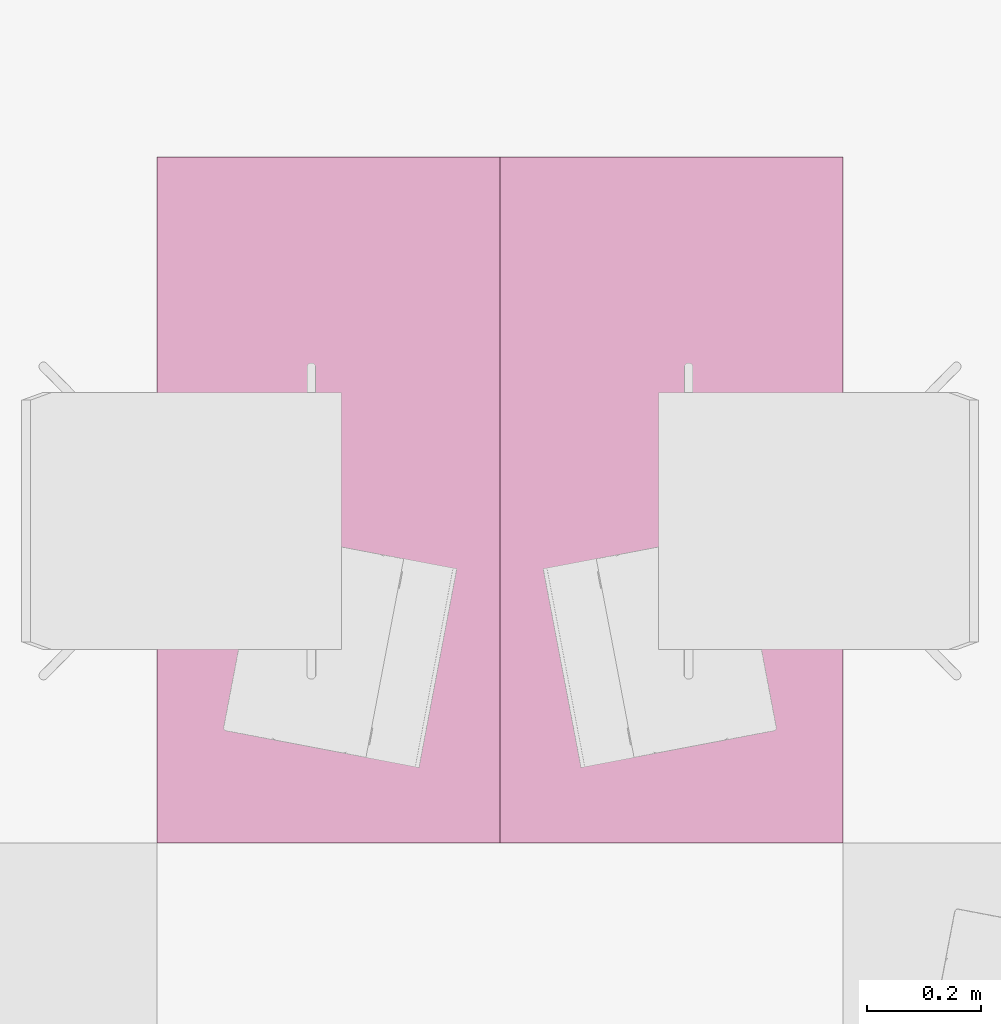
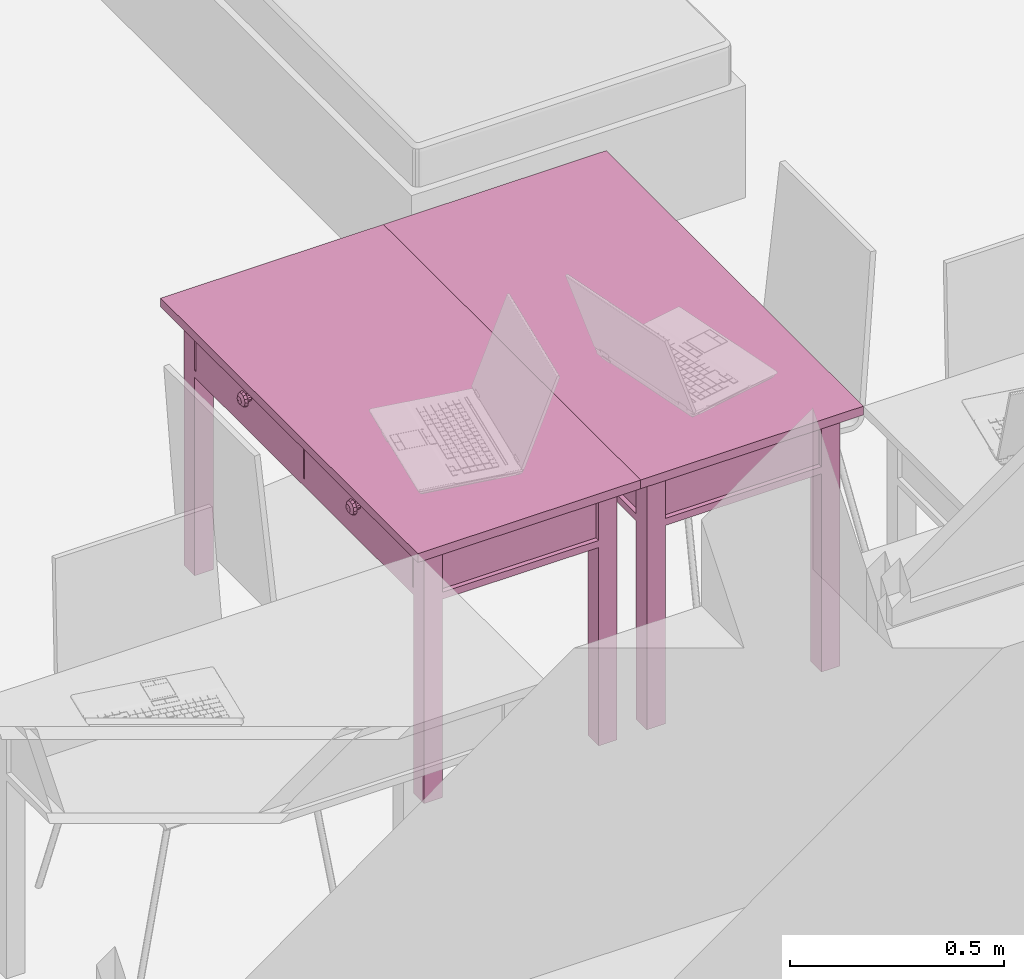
# One storey, part 54 of 165: 2 furnishings.
"""IFC2X3 building model written with IfcOpenShell, lengths in millimetres."""

from ifc_helpers import new_model, entity, si_unit, converted_unit, money_unit, direction, frame, origin_with_axes, place, context, subcontext, project, spatial, faceted_brep, source, transform, mapped, material, material_list, type_object, element, save


model = new_model("IFC2X3")

# Units and contexts
model_context = context("Model", 3, precision=1e-05, world=origin_with_axes(), true_north=direction((0.0, 1.0)))
body_context = subcontext(model_context, "Body", "Model", "MODEL_VIEW")
ifc_project = project(units=[si_unit("LENGTHUNIT", "METRE", prefix="MILLI"), si_unit("AREAUNIT", "SQUARE_METRE"), si_unit("VOLUMEUNIT", "CUBIC_METRE"), converted_unit("PLANEANGLEUNIT", "DEGREE", entity("IfcPlaneAngleMeasure", 0.0174532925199), si_unit("PLANEANGLEUNIT", "RADIAN"), dimensions=[0, 0, 0, 0, 0, 0, 0]), si_unit("SOLIDANGLEUNIT", "STERADIAN"), money_unit("USD"), converted_unit("TIMEUNIT", "Year", entity("IfcTimeMeasure", 31556926.0), si_unit("TIMEUNIT", "SECOND"), dimensions=[0, 0, 0, 0, 0, 0, 0]), si_unit("MASSUNIT", "GRAM"), si_unit("THERMODYNAMICTEMPERATUREUNIT", "DEGREE_CELSIUS"), si_unit("LUMINOUSINTENSITYUNIT", "LUMEN")], contexts=[model_context])

# Site, building, storey
site_placement = place(None, origin_with_axes())
site = spatial("IfcSite", under=ifc_project, at=site_placement, Name="Site", CompositionType="ELEMENT")
building_placement = place(site_placement, origin_with_axes())
building = spatial("IfcBuilding", under=site, at=building_placement, Name="Building", CompositionType="ELEMENT")
storey_placement = place(building_placement, frame((0.0, 0.0, 6300.0), z_axis=(0.0, 0.0, 1.0), x_axis=(1.0, 0.0, 0.0)))
storey = spatial("IfcBuildingStorey", under=building, at=storey_placement, Name="4KORRUS", CompositionType="ELEMENT", Elevation=6300.0)

# Furnishings
ifc_material = material(Name="Background")
ifc_material_list = material_list([ifc_material])
furnishing_element_type = type_object("IfcFurnishingElementType", Name="Rectangular Table 01 19")
shared_shape_1 = source(origin_with_axes(), body_context, "Body", "Brep", [
    faceted_brep([(90.0, 40.0, 0.0), (40.0, 40.0, 0.0), (40.0, 90.0, 0.0), (90.0, 90.0, 0.0), (90.0, 40.0, 725.0), (40.0, 40.0, 725.0), (40.0, 90.0, 725.0), (90.0, 90.0, 725.0)], [[[0, 1, 2, 3]], [[1, 0, 4, 5]], [[2, 1, 5, 6]], [[3, 2, 6, 7]], [[0, 3, 7, 4]], [[5, 4, 7, 6]]]),
    faceted_brep([(1160.0, 40.0, 0.0), (1110.0, 40.0, 0.0), (1110.0, 90.0, 0.0), (1160.0, 90.0, 0.0), (1160.0, 40.0, 725.0), (1110.0, 40.0, 725.0), (1110.0, 90.0, 725.0), (1160.0, 90.0, 725.0)], [[[0, 1, 2, 3]], [[1, 0, 4, 5]], [[2, 1, 5, 6]], [[3, 2, 6, 7]], [[0, 3, 7, 4]], [[5, 4, 7, 6]]]),
    faceted_brep([(90.0, 510.0, 0.0), (40.0, 510.0, 0.0), (40.0, 560.0, 0.0), (90.0, 560.0, 0.0), (90.0, 510.0, 725.0), (40.0, 510.0, 725.0), (40.0, 560.0, 725.0), (90.0, 560.0, 725.0)], [[[0, 1, 2, 3]], [[1, 0, 4, 5]], [[2, 1, 5, 6]], [[3, 2, 6, 7]], [[0, 3, 7, 4]], [[5, 4, 7, 6]]]),
    faceted_brep([(1160.0, 510.0, 0.0), (1110.0, 510.0, 0.0), (1110.0, 560.0, 0.0), (1160.0, 560.0, 0.0), (1160.0, 510.0, 725.0), (1110.0, 510.0, 725.0), (1110.0, 560.0, 725.0), (1160.0, 560.0, 725.0)], [[[0, 1, 2, 3]], [[1, 0, 4, 5]], [[2, 1, 5, 6]], [[3, 2, 6, 7]], [[0, 3, 7, 4]], [[5, 4, 7, 6]]]),
    faceted_brep([(1160.0, 40.0, 565.0), (40.0, 40.0, 565.0), (40.0, 560.0, 565.0), (1160.0, 560.0, 565.0), (1160.0, 40.0, 585.0), (40.0, 40.0, 585.0), (40.0, 560.0, 585.0), (1160.0, 560.0, 585.0)], [[[0, 1, 2, 3]], [[1, 0, 4, 5]], [[2, 1, 5, 6]], [[3, 2, 6, 7]], [[0, 3, 7, 4]], [[5, 4, 7, 6]]]),
    faceted_brep([(1110.0, 52.5, 585.0), (90.0, 52.5, 585.0), (90.0, 77.5, 585.0), (1110.0, 77.5, 585.0), (1110.0, 52.5, 745.0), (90.0, 52.5, 745.0), (90.0, 77.5, 745.0), (1110.0, 77.5, 745.0)], [[[0, 1, 2, 3]], [[1, 0, 4, 5]], [[2, 1, 5, 6]], [[3, 2, 6, 7]], [[0, 3, 7, 4]], [[5, 4, 7, 6]]]),
    faceted_brep([(77.5, 90.0, 585.0), (52.5, 90.0, 585.0), (52.5, 510.0, 585.0), (77.5, 510.0, 585.0), (77.5, 90.0, 745.0), (52.5, 90.0, 745.0), (52.5, 510.0, 745.0), (77.5, 510.0, 745.0)], [[[0, 1, 2, 3]], [[1, 0, 4, 5]], [[2, 1, 5, 6]], [[3, 2, 6, 7]], [[0, 3, 7, 4]], [[5, 4, 7, 6]]]),
    faceted_brep([(90.0, 547.5, 585.0), (1110.0, 547.5, 585.0), (1110.0, 522.5, 585.0), (90.0, 522.5, 585.0), (90.0, 547.5, 745.0), (1110.0, 547.5, 745.0), (1110.0, 522.5, 745.0), (90.0, 522.5, 745.0)], [[[0, 1, 2, 3]], [[1, 0, 4, 5]], [[2, 1, 5, 6]], [[3, 2, 6, 7]], [[0, 3, 7, 4]], [[5, 4, 7, 6]]]),
    faceted_brep([(1122.5, 510.0, 585.0), (1147.5, 510.0, 585.0), (1147.5, 90.0, 585.0), (1122.5, 90.0, 585.0), (1122.5, 510.0, 745.0), (1147.5, 510.0, 745.0), (1147.5, 90.0, 745.0), (1122.5, 90.0, 745.0)], [[[0, 1, 2, 3]], [[1, 0, 4, 5]], [[2, 1, 5, 6]], [[3, 2, 6, 7]], [[0, 3, 7, 4]], [[5, 4, 7, 6]]]),
    faceted_brep([(597.5, 40.0, 585.0), (95.0, 40.0, 585.0), (95.0, 60.0, 585.0), (597.5, 60.0, 585.0), (597.5, 40.0, 745.0), (95.0, 40.0, 745.0), (95.0, 60.0, 745.0), (597.5, 60.0, 745.0)], [[[0, 1, 2, 3]], [[1, 0, 4, 5]], [[2, 1, 5, 6]], [[3, 2, 6, 7]], [[0, 3, 7, 4]], [[5, 4, 7, 6]]]),
    faceted_brep([(1105.0, 40.0, 585.0), (602.5, 40.0, 585.0), (602.5, 60.0, 585.0), (1105.0, 60.0, 585.0), (1105.0, 40.0, 745.0), (602.5, 40.0, 745.0), (602.5, 60.0, 745.0), (1105.0, 60.0, 745.0)], [[[0, 1, 2, 3]], [[1, 0, 4, 5]], [[2, 1, 5, 6]], [[3, 2, 6, 7]], [[0, 3, 7, 4]], [[5, 4, 7, 6]]]),
    faceted_brep([(354.91, 40.0, 660.0), (351.25, 40.0, 656.34), (346.25, 40.0, 655.0), (341.25, 40.0, 656.34), (337.59, 40.0, 660.0), (336.25, 40.0, 665.0), (337.59, 40.0, 670.0), (341.25, 40.0, 673.66), (346.25, 40.0, 675.0), (351.25, 40.0, 673.66), (354.91, 40.0, 670.0), (356.25, 40.0, 665.0), (354.91, 25.0, 660.0), (351.25, 25.0, 656.34), (346.25, 25.0, 655.0), (341.25, 25.0, 656.34), (337.59, 25.0, 660.0), (336.25, 25.0, 665.0), (337.59, 25.0, 670.0), (341.25, 25.0, 673.66), (346.25, 25.0, 675.0), (351.25, 25.0, 673.66), (354.91, 25.0, 670.0), (356.25, 25.0, 665.0)], [[[0, 1, 2, 3, 4, 5, 6, 7, 8, 9, 10, 11]], [[1, 0, 12, 13]], [[2, 1, 13, 14]], [[3, 2, 14, 15]], [[4, 3, 15, 16]], [[5, 4, 16, 17]], [[6, 5, 17, 18]], [[7, 6, 18, 19]], [[8, 7, 19, 20]], [[9, 8, 20, 21]], [[10, 9, 21, 22]], [[11, 10, 22, 23]], [[0, 11, 23, 12]], [[12, 23, 22, 21, 20, 19, 18, 17, 16, 15, 14, 13]]]),
    faceted_brep([(356.25, 12.01, 665.0), (346.25, 10.0, 665.0), (354.91, 12.01, 660.0), (354.91, 12.01, 670.0), (351.25, 12.01, 656.34), (363.571, 17.5, 665.0), (361.25, 17.5, 656.34), (351.25, 12.01, 673.66), (361.25, 17.5, 673.66), (346.25, 12.01, 655.0), (354.91, 17.5, 650.0), (366.25, 25.0, 665.0), (363.571, 25.0, 655.0), (346.25, 12.01, 675.0), (354.91, 17.5, 680.0), (363.571, 25.0, 675.0), (341.25, 12.01, 656.34), (346.25, 17.5, 647.679), (356.25, 25.0, 647.679), (346.25, 25.0, 645.0), (336.25, 25.0, 647.679), (328.929, 25.0, 655.0), (326.25, 25.0, 665.0), (328.929, 25.0, 675.0), (336.25, 25.0, 682.321), (346.25, 25.0, 685.0), (356.25, 25.0, 682.321), (341.25, 12.01, 673.66), (346.25, 17.5, 682.321), (337.59, 12.01, 660.0), (337.59, 17.5, 650.0), (331.25, 17.5, 656.34), (328.929, 17.5, 665.0), (331.25, 17.5, 673.66), (337.59, 17.5, 680.0), (337.59, 12.01, 670.0), (336.25, 12.01, 665.0)], [[[0, 1, 2]], [[3, 1, 0]], [[2, 1, 4]], [[5, 0, 2, 6]], [[7, 1, 3]], [[8, 3, 0, 5]], [[4, 1, 9]], [[6, 2, 4, 10]], [[11, 5, 6, 12]], [[13, 1, 7]], [[14, 7, 3, 8]], [[15, 8, 5, 11]], [[9, 1, 16]], [[10, 4, 9, 17]], [[12, 6, 10, 18]], [[12, 18, 19, 20, 21, 22, 23, 24, 25, 26, 15, 11]], [[27, 1, 13]], [[28, 13, 7, 14]], [[26, 14, 8, 15]], [[16, 1, 29]], [[17, 9, 16, 30]], [[18, 10, 17, 19]], [[19, 17, 30, 20]], [[20, 30, 31, 21]], [[21, 31, 32, 22]], [[22, 32, 33, 23]], [[23, 33, 34, 24]], [[24, 34, 28, 25]], [[25, 28, 14, 26]], [[35, 1, 27]], [[34, 27, 13, 28]], [[29, 1, 36]], [[30, 16, 29, 31]], [[31, 29, 36, 32]], [[32, 36, 35, 33]], [[33, 35, 27, 34]], [[36, 1, 35]]]),
    faceted_brep([(862.41, 40.0, 660.0), (858.75, 40.0, 656.34), (853.75, 40.0, 655.0), (848.75, 40.0, 656.34), (845.09, 40.0, 660.0), (843.75, 40.0, 665.0), (845.09, 40.0, 670.0), (848.75, 40.0, 673.66), (853.75, 40.0, 675.0), (858.75, 40.0, 673.66), (862.41, 40.0, 670.0), (863.75, 40.0, 665.0), (862.41, 25.0, 660.0), (858.75, 25.0, 656.34), (853.75, 25.0, 655.0), (848.75, 25.0, 656.34), (845.09, 25.0, 660.0), (843.75, 25.0, 665.0), (845.09, 25.0, 670.0), (848.75, 25.0, 673.66), (853.75, 25.0, 675.0), (858.75, 25.0, 673.66), (862.41, 25.0, 670.0), (863.75, 25.0, 665.0)], [[[0, 1, 2, 3, 4, 5, 6, 7, 8, 9, 10, 11]], [[1, 0, 12, 13]], [[2, 1, 13, 14]], [[3, 2, 14, 15]], [[4, 3, 15, 16]], [[5, 4, 16, 17]], [[6, 5, 17, 18]], [[7, 6, 18, 19]], [[8, 7, 19, 20]], [[9, 8, 20, 21]], [[10, 9, 21, 22]], [[11, 10, 22, 23]], [[0, 11, 23, 12]], [[12, 23, 22, 21, 20, 19, 18, 17, 16, 15, 14, 13]]]),
    faceted_brep([(863.75, 12.01, 665.0), (853.75, 10.0, 665.0), (862.41, 12.01, 660.0), (862.41, 12.01, 670.0), (858.75, 12.01, 656.34), (871.071, 17.5, 665.0), (868.75, 17.5, 656.34), (858.75, 12.01, 673.66), (868.75, 17.5, 673.66), (853.75, 12.01, 655.0), (862.41, 17.5, 650.0), (873.75, 25.0, 665.0), (871.071, 25.0, 655.0), (853.75, 12.01, 675.0), (862.41, 17.5, 680.0), (871.071, 25.0, 675.0), (848.75, 12.01, 656.34), (853.75, 17.5, 647.679), (863.75, 25.0, 647.679), (853.75, 25.0, 645.0), (843.75, 25.0, 647.679), (836.429, 25.0, 655.0), (833.75, 25.0, 665.0), (836.429, 25.0, 675.0), (843.75, 25.0, 682.321), (853.75, 25.0, 685.0), (863.75, 25.0, 682.321), (848.75, 12.01, 673.66), (853.75, 17.5, 682.321), (845.09, 12.01, 660.0), (845.09, 17.5, 650.0), (838.75, 17.5, 656.34), (836.429, 17.5, 665.0), (838.75, 17.5, 673.66), (845.09, 17.5, 680.0), (845.09, 12.01, 670.0), (843.75, 12.01, 665.0)], [[[0, 1, 2]], [[3, 1, 0]], [[2, 1, 4]], [[5, 0, 2, 6]], [[7, 1, 3]], [[8, 3, 0, 5]], [[4, 1, 9]], [[6, 2, 4, 10]], [[11, 5, 6, 12]], [[13, 1, 7]], [[14, 7, 3, 8]], [[15, 8, 5, 11]], [[9, 1, 16]], [[10, 4, 9, 17]], [[12, 6, 10, 18]], [[12, 18, 19, 20, 21, 22, 23, 24, 25, 26, 15, 11]], [[27, 1, 13]], [[28, 13, 7, 14]], [[26, 14, 8, 15]], [[16, 1, 29]], [[17, 9, 16, 30]], [[18, 10, 17, 19]], [[19, 17, 30, 20]], [[20, 30, 31, 21]], [[21, 31, 32, 22]], [[22, 32, 33, 23]], [[23, 33, 34, 24]], [[24, 34, 28, 25]], [[25, 28, 14, 26]], [[35, 1, 27]], [[34, 27, 13, 28]], [[29, 1, 36]], [[30, 16, 29, 31]], [[31, 29, 36, 32]], [[32, 36, 35, 33]], [[33, 35, 27, 34]], [[36, 1, 35]]]),
    faceted_brep([(1200.0, 0.0, 725.0), (0.0, 0.0, 725.0), (0.0, 600.0, 725.0), (1200.0, 600.0, 725.0), (1200.0, 0.0, 750.0), (0.0, 0.0, 750.0), (0.0, 600.0, 750.0), (1200.0, 600.0, 750.0)], [[[0, 1, 2, 3]], [[1, 0, 4, 5]], [[2, 1, 5, 6]], [[3, 2, 6, 7]], [[0, 3, 7, 4]], [[5, 4, 7, 6]]]),
])
furnishing_1_placement = place(storey_placement, frame((-50495.8669764, -18939.2398994, 0.0), z_axis=(0.0, 0.0, 1.0), x_axis=(0.0, 1.0, 0.0)))
element("IfcFurnishingElement", 1, at=furnishing_1_placement, inside=storey, type_object=furnishing_element_type, material=ifc_material_list, Name="FU - 011", context=body_context, shape_type="MappedRepresentation", body=[
    mapped(shared_shape_1, transform((0.0, 0.0, 0.0))),
])
shared_shape_2 = source(origin_with_axes(), body_context, "Body", "Brep", [
    faceted_brep([(-90.0, 40.0, 0.0), (-90.0, 90.0, 0.0), (-40.0, 90.0, 0.0), (-40.0, 40.0, 0.0), (-90.0, 40.0, 725.0), (-90.0, 90.0, 725.0), (-40.0, 90.0, 725.0), (-40.0, 40.0, 725.0)], [[[0, 1, 2, 3]], [[0, 4, 5, 1]], [[1, 5, 6, 2]], [[2, 6, 7, 3]], [[3, 7, 4, 0]], [[7, 6, 5, 4]]]),
    faceted_brep([(-1160.0, 40.0, 0.0), (-1160.0, 90.0, 0.0), (-1110.0, 90.0, 0.0), (-1110.0, 40.0, 0.0), (-1160.0, 40.0, 725.0), (-1160.0, 90.0, 725.0), (-1110.0, 90.0, 725.0), (-1110.0, 40.0, 725.0)], [[[0, 1, 2, 3]], [[0, 4, 5, 1]], [[1, 5, 6, 2]], [[2, 6, 7, 3]], [[3, 7, 4, 0]], [[7, 6, 5, 4]]]),
    faceted_brep([(-90.0, 510.0, 0.0), (-90.0, 560.0, 0.0), (-40.0, 560.0, 0.0), (-40.0, 510.0, 0.0), (-90.0, 510.0, 725.0), (-90.0, 560.0, 725.0), (-40.0, 560.0, 725.0), (-40.0, 510.0, 725.0)], [[[0, 1, 2, 3]], [[0, 4, 5, 1]], [[1, 5, 6, 2]], [[2, 6, 7, 3]], [[3, 7, 4, 0]], [[7, 6, 5, 4]]]),
    faceted_brep([(-1160.0, 510.0, 0.0), (-1160.0, 560.0, 0.0), (-1110.0, 560.0, 0.0), (-1110.0, 510.0, 0.0), (-1160.0, 510.0, 725.0), (-1160.0, 560.0, 725.0), (-1110.0, 560.0, 725.0), (-1110.0, 510.0, 725.0)], [[[0, 1, 2, 3]], [[0, 4, 5, 1]], [[1, 5, 6, 2]], [[2, 6, 7, 3]], [[3, 7, 4, 0]], [[7, 6, 5, 4]]]),
    faceted_brep([(-1160.0, 40.0, 565.0), (-1160.0, 560.0, 565.0), (-40.0, 560.0, 565.0), (-40.0, 40.0, 565.0), (-1160.0, 40.0, 585.0), (-1160.0, 560.0, 585.0), (-40.0, 560.0, 585.0), (-40.0, 40.0, 585.0)], [[[0, 1, 2, 3]], [[0, 4, 5, 1]], [[1, 5, 6, 2]], [[2, 6, 7, 3]], [[3, 7, 4, 0]], [[7, 6, 5, 4]]]),
    faceted_brep([(-1110.0, 52.5, 585.0), (-1110.0, 77.5, 585.0), (-90.0, 77.5, 585.0), (-90.0, 52.5, 585.0), (-1110.0, 52.5, 745.0), (-1110.0, 77.5, 745.0), (-90.0, 77.5, 745.0), (-90.0, 52.5, 745.0)], [[[0, 1, 2, 3]], [[0, 4, 5, 1]], [[1, 5, 6, 2]], [[2, 6, 7, 3]], [[3, 7, 4, 0]], [[7, 6, 5, 4]]]),
    faceted_brep([(-77.5, 90.0, 585.0), (-77.5, 510.0, 585.0), (-52.5, 510.0, 585.0), (-52.5, 90.0, 585.0), (-77.5, 90.0, 745.0), (-77.5, 510.0, 745.0), (-52.5, 510.0, 745.0), (-52.5, 90.0, 745.0)], [[[0, 1, 2, 3]], [[0, 4, 5, 1]], [[1, 5, 6, 2]], [[2, 6, 7, 3]], [[3, 7, 4, 0]], [[7, 6, 5, 4]]]),
    faceted_brep([(-90.0, 547.5, 585.0), (-90.0, 522.5, 585.0), (-1110.0, 522.5, 585.0), (-1110.0, 547.5, 585.0), (-90.0, 547.5, 745.0), (-90.0, 522.5, 745.0), (-1110.0, 522.5, 745.0), (-1110.0, 547.5, 745.0)], [[[0, 1, 2, 3]], [[0, 4, 5, 1]], [[1, 5, 6, 2]], [[2, 6, 7, 3]], [[3, 7, 4, 0]], [[7, 6, 5, 4]]]),
    faceted_brep([(-1122.5, 510.0, 585.0), (-1122.5, 90.0, 585.0), (-1147.5, 90.0, 585.0), (-1147.5, 510.0, 585.0), (-1122.5, 510.0, 745.0), (-1122.5, 90.0, 745.0), (-1147.5, 90.0, 745.0), (-1147.5, 510.0, 745.0)], [[[0, 1, 2, 3]], [[0, 4, 5, 1]], [[1, 5, 6, 2]], [[2, 6, 7, 3]], [[3, 7, 4, 0]], [[7, 6, 5, 4]]]),
    faceted_brep([(-597.5, 40.0, 585.0), (-597.5, 60.0, 585.0), (-95.0, 60.0, 585.0), (-95.0, 40.0, 585.0), (-597.5, 40.0, 745.0), (-597.5, 60.0, 745.0), (-95.0, 60.0, 745.0), (-95.0, 40.0, 745.0)], [[[0, 1, 2, 3]], [[0, 4, 5, 1]], [[1, 5, 6, 2]], [[2, 6, 7, 3]], [[3, 7, 4, 0]], [[7, 6, 5, 4]]]),
    faceted_brep([(-1105.0, 40.0, 585.0), (-1105.0, 60.0, 585.0), (-602.5, 60.0, 585.0), (-602.5, 40.0, 585.0), (-1105.0, 40.0, 745.0), (-1105.0, 60.0, 745.0), (-602.5, 60.0, 745.0), (-602.5, 40.0, 745.0)], [[[0, 1, 2, 3]], [[0, 4, 5, 1]], [[1, 5, 6, 2]], [[2, 6, 7, 3]], [[3, 7, 4, 0]], [[7, 6, 5, 4]]]),
    faceted_brep([(-354.91, 40.0, 660.0), (-356.25, 40.0, 665.0), (-354.91, 40.0, 670.0), (-351.25, 40.0, 673.66), (-346.25, 40.0, 675.0), (-341.25, 40.0, 673.66), (-337.59, 40.0, 670.0), (-336.25, 40.0, 665.0), (-337.59, 40.0, 660.0), (-341.25, 40.0, 656.34), (-346.25, 40.0, 655.0), (-351.25, 40.0, 656.34), (-354.91, 25.0, 660.0), (-356.25, 25.0, 665.0), (-354.91, 25.0, 670.0), (-351.25, 25.0, 673.66), (-346.25, 25.0, 675.0), (-341.25, 25.0, 673.66), (-337.59, 25.0, 670.0), (-336.25, 25.0, 665.0), (-337.59, 25.0, 660.0), (-341.25, 25.0, 656.34), (-346.25, 25.0, 655.0), (-351.25, 25.0, 656.34)], [[[0, 1, 2, 3, 4, 5, 6, 7, 8, 9, 10, 11]], [[0, 12, 13, 1]], [[1, 13, 14, 2]], [[2, 14, 15, 3]], [[3, 15, 16, 4]], [[4, 16, 17, 5]], [[5, 17, 18, 6]], [[6, 18, 19, 7]], [[7, 19, 20, 8]], [[8, 20, 21, 9]], [[9, 21, 22, 10]], [[10, 22, 23, 11]], [[11, 23, 12, 0]], [[12, 23, 22, 21, 20, 19, 18, 17, 16, 15, 14, 13]]]),
    faceted_brep([(-356.25, 12.01, 665.0), (-354.91, 12.01, 660.0), (-346.25, 10.0, 665.0), (-363.571, 17.5, 665.0), (-361.25, 17.5, 656.34), (-351.25, 12.01, 656.34), (-354.91, 12.01, 670.0), (-366.25, 25.0, 665.0), (-363.571, 25.0, 655.0), (-354.91, 17.5, 650.0), (-361.25, 17.5, 673.66), (-346.25, 12.01, 655.0), (-351.25, 12.01, 673.66), (-363.571, 25.0, 675.0), (-356.25, 25.0, 682.321), (-346.25, 25.0, 685.0), (-336.25, 25.0, 682.321), (-328.929, 25.0, 675.0), (-326.25, 25.0, 665.0), (-328.929, 25.0, 655.0), (-336.25, 25.0, 647.679), (-346.25, 25.0, 645.0), (-356.25, 25.0, 647.679), (-346.25, 17.5, 647.679), (-354.91, 17.5, 680.0), (-341.25, 12.01, 656.34), (-346.25, 12.01, 675.0), (-346.25, 17.5, 682.321), (-337.59, 17.5, 680.0), (-331.25, 17.5, 673.66), (-328.929, 17.5, 665.0), (-331.25, 17.5, 656.34), (-337.59, 17.5, 650.0), (-337.59, 12.01, 660.0), (-341.25, 12.01, 673.66), (-337.59, 12.01, 670.0), (-336.25, 12.01, 665.0)], [[[0, 1, 2]], [[3, 4, 1, 0]], [[1, 5, 2]], [[6, 0, 2]], [[7, 8, 4, 3]], [[4, 9, 5, 1]], [[10, 3, 0, 6]], [[5, 11, 2]], [[12, 6, 2]], [[8, 7, 13, 14, 15, 16, 17, 18, 19, 20, 21, 22]], [[8, 22, 9, 4]], [[13, 7, 3, 10]], [[9, 23, 11, 5]], [[24, 10, 6, 12]], [[11, 25, 2]], [[26, 12, 2]], [[14, 13, 10, 24]], [[15, 14, 24, 27]], [[16, 15, 27, 28]], [[17, 16, 28, 29]], [[18, 17, 29, 30]], [[19, 18, 30, 31]], [[20, 19, 31, 32]], [[21, 20, 32, 23]], [[22, 21, 23, 9]], [[23, 32, 25, 11]], [[27, 24, 12, 26]], [[25, 33, 2]], [[34, 26, 2]], [[28, 27, 26, 34]], [[29, 28, 34, 35]], [[30, 29, 35, 36]], [[31, 30, 36, 33]], [[32, 31, 33, 25]], [[33, 36, 2]], [[35, 34, 2]], [[36, 35, 2]]]),
    faceted_brep([(-862.41, 40.0, 660.0), (-863.75, 40.0, 665.0), (-862.41, 40.0, 670.0), (-858.75, 40.0, 673.66), (-853.75, 40.0, 675.0), (-848.75, 40.0, 673.66), (-845.09, 40.0, 670.0), (-843.75, 40.0, 665.0), (-845.09, 40.0, 660.0), (-848.75, 40.0, 656.34), (-853.75, 40.0, 655.0), (-858.75, 40.0, 656.34), (-862.41, 25.0, 660.0), (-863.75, 25.0, 665.0), (-862.41, 25.0, 670.0), (-858.75, 25.0, 673.66), (-853.75, 25.0, 675.0), (-848.75, 25.0, 673.66), (-845.09, 25.0, 670.0), (-843.75, 25.0, 665.0), (-845.09, 25.0, 660.0), (-848.75, 25.0, 656.34), (-853.75, 25.0, 655.0), (-858.75, 25.0, 656.34)], [[[0, 1, 2, 3, 4, 5, 6, 7, 8, 9, 10, 11]], [[0, 12, 13, 1]], [[1, 13, 14, 2]], [[2, 14, 15, 3]], [[3, 15, 16, 4]], [[4, 16, 17, 5]], [[5, 17, 18, 6]], [[6, 18, 19, 7]], [[7, 19, 20, 8]], [[8, 20, 21, 9]], [[9, 21, 22, 10]], [[10, 22, 23, 11]], [[11, 23, 12, 0]], [[12, 23, 22, 21, 20, 19, 18, 17, 16, 15, 14, 13]]]),
    faceted_brep([(-863.75, 12.01, 665.0), (-862.41, 12.01, 660.0), (-853.75, 10.0, 665.0), (-871.071, 17.5, 665.0), (-868.75, 17.5, 656.34), (-858.75, 12.01, 656.34), (-862.41, 12.01, 670.0), (-873.75, 25.0, 665.0), (-871.071, 25.0, 655.0), (-862.41, 17.5, 650.0), (-868.75, 17.5, 673.66), (-853.75, 12.01, 655.0), (-858.75, 12.01, 673.66), (-871.071, 25.0, 675.0), (-863.75, 25.0, 682.321), (-853.75, 25.0, 685.0), (-843.75, 25.0, 682.321), (-836.429, 25.0, 675.0), (-833.75, 25.0, 665.0), (-836.429, 25.0, 655.0), (-843.75, 25.0, 647.679), (-853.75, 25.0, 645.0), (-863.75, 25.0, 647.679), (-853.75, 17.5, 647.679), (-862.41, 17.5, 680.0), (-848.75, 12.01, 656.34), (-853.75, 12.01, 675.0), (-853.75, 17.5, 682.321), (-845.09, 17.5, 680.0), (-838.75, 17.5, 673.66), (-836.429, 17.5, 665.0), (-838.75, 17.5, 656.34), (-845.09, 17.5, 650.0), (-845.09, 12.01, 660.0), (-848.75, 12.01, 673.66), (-845.09, 12.01, 670.0), (-843.75, 12.01, 665.0)], [[[0, 1, 2]], [[3, 4, 1, 0]], [[1, 5, 2]], [[6, 0, 2]], [[7, 8, 4, 3]], [[4, 9, 5, 1]], [[10, 3, 0, 6]], [[5, 11, 2]], [[12, 6, 2]], [[8, 7, 13, 14, 15, 16, 17, 18, 19, 20, 21, 22]], [[8, 22, 9, 4]], [[13, 7, 3, 10]], [[9, 23, 11, 5]], [[24, 10, 6, 12]], [[11, 25, 2]], [[26, 12, 2]], [[14, 13, 10, 24]], [[15, 14, 24, 27]], [[16, 15, 27, 28]], [[17, 16, 28, 29]], [[18, 17, 29, 30]], [[19, 18, 30, 31]], [[20, 19, 31, 32]], [[21, 20, 32, 23]], [[22, 21, 23, 9]], [[23, 32, 25, 11]], [[27, 24, 12, 26]], [[25, 33, 2]], [[34, 26, 2]], [[28, 27, 26, 34]], [[29, 28, 34, 35]], [[30, 29, 35, 36]], [[31, 30, 36, 33]], [[32, 31, 33, 25]], [[33, 36, 2]], [[35, 34, 2]], [[36, 35, 2]]]),
    faceted_brep([(-1200.0, 0.0, 725.0), (-1200.0, 600.0, 725.0), (0.0, 600.0, 725.0), (0.0, 0.0, 725.0), (-1200.0, 0.0, 750.0), (-1200.0, 600.0, 750.0), (0.0, 600.0, 750.0), (0.0, 0.0, 750.0)], [[[0, 1, 2, 3]], [[0, 4, 5, 1]], [[1, 5, 6, 2]], [[2, 6, 7, 3]], [[3, 7, 4, 0]], [[7, 6, 5, 4]]]),
])
furnishing_2_placement = place(storey_placement, frame((-51695.8669764, -18939.2398994, 0.0), z_axis=(0.0, 0.0, 1.0), x_axis=(0.0, -1.0, 0.0)))
element("IfcFurnishingElement", 2, at=furnishing_2_placement, inside=storey, type_object=furnishing_element_type, material=ifc_material_list, Name="FU - 011", context=body_context, shape_type="MappedRepresentation", body=[
    mapped(shared_shape_2, transform((0.0, 0.0, 0.0))),
])

save(model, "model.ifc")
